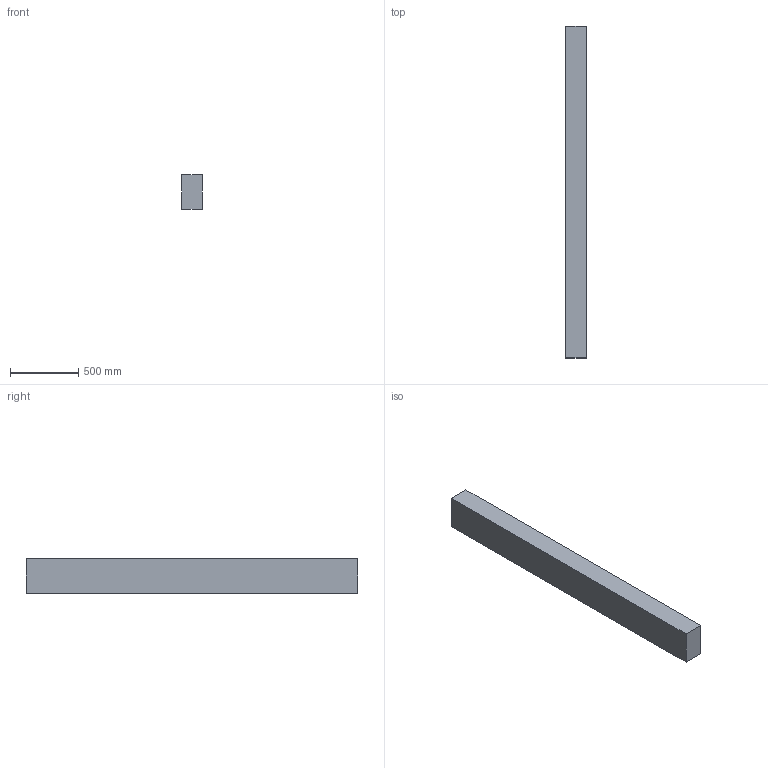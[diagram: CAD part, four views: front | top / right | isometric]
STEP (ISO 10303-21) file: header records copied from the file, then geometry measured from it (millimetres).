
FILE_DESCRIPTION(/* description */ (''),/* implementation_level */ '2;1');
FILE_NAME(/* name */ '6x10x96',/* time_stamp */ '2024-09-20T11:47:26-05:00',/* author */ (''),/* organization */ (''),/* preprocessor_version */ 'ST-DEVELOPER v19.2',/* originating_system */ 'Rhino 8.5',/* authorisation */ '');
FILE_SCHEMA (('CONFIG_CONTROL_DESIGN'));
Length unit declared in the file: inch
Products named in the file (1): Document
Bounding box: 152.4 x 2438.4 x 254 mm (x, y, z)
Volume: 94389488.6 mm3; surface area: 2059350.7 mm2
Topology: 1 solids, 1 shells, 6 faces, 12 edges, 8 vertices
Faces by surface type: plane 6
Entity records: 226 total; most frequent: CARTESIAN_POINT 40, ORIENTED_EDGE 24, EDGE_CURVE 12, B_SPLINE_CURVE_WITH_KNOTS 12, DIRECTION 10, VERTEX_POINT 8, AXIS2_PLACEMENT_3D 8, ORGANIZATION 7
